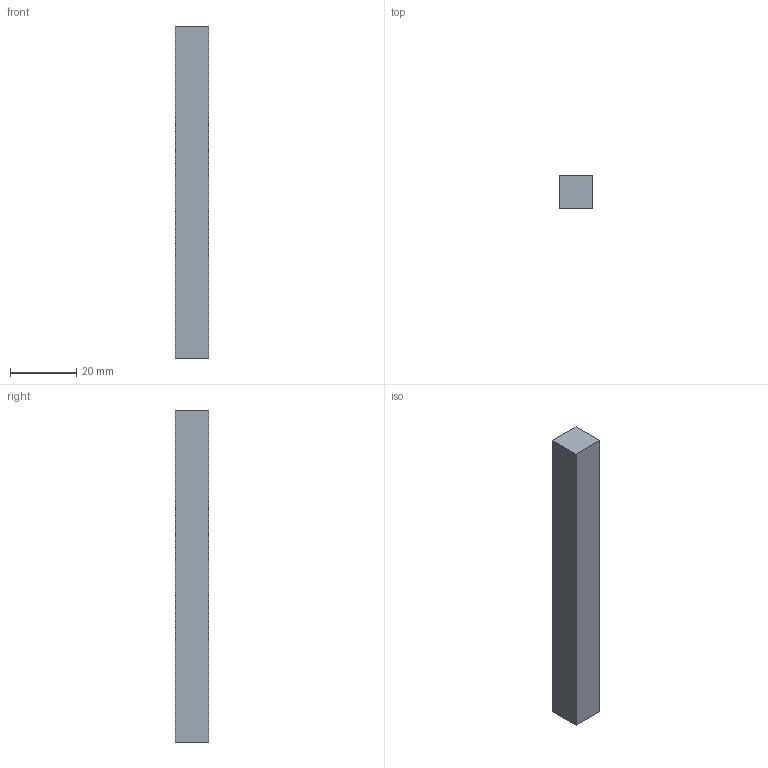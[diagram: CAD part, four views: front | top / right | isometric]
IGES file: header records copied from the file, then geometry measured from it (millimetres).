
Start section: DESIGNBASE IGES
Global section: file name: C:\CAD\FEM\MagTest\Test1\coil.igs; native system: RICOH DESIGNBASE V13; preprocessor: IGES PREPROCESSOR V13; author: unknown; organization: unknown; date: 20150705.170643; units: metre
Bounding box: 10 x 10 x 100 mm (x, y, z)
Volume: 10000 mm3; surface area: 4200 mm2
Topology: 1 solids, 1 shells, 6 faces, 12 edges, 8 vertices
Faces by surface type: bspline 6
